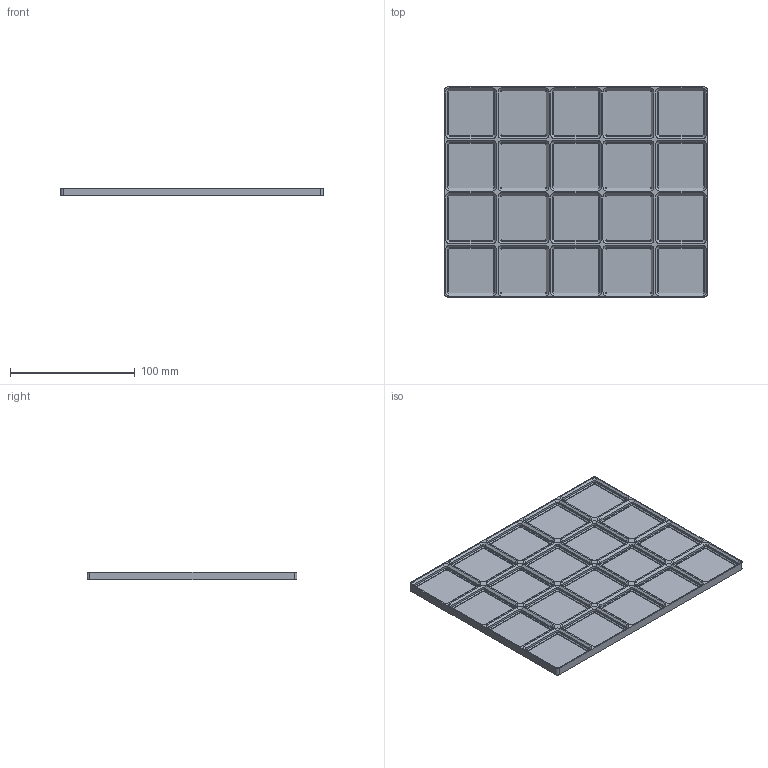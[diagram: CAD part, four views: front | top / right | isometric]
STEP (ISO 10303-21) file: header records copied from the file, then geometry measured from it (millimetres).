
FILE_DESCRIPTION(('Open CASCADE Model'),'2;1');
FILE_NAME('Open CASCADE Shape Model','2026-11-03T10:35:42',('Author'),( 'Open CASCADE'),'Open CASCADE STEP processor 8.0','build123d', 'Unknown');
FILE_SCHEMA(('AUTOMOTIVE_DESIGN { 1 0 10303 214 1 1 1 1 }'));
Length unit declared in the file: millimetre
Products named in the file (1): COMPOUND
Bounding box: 210 x 168 x 6.4 mm (x, y, z)
Volume: 93635.8 mm3; surface area: 84887.2 mm2
Topology: 1 solids, 1 shells, 670 faces, 1464 edges, 816 vertices
Faces by surface type: plane 346, cylinder 164, cone 160
Entity records: 34682 total; most frequent: CARTESIAN_POINT 8007, DIRECTION 4054, ORIENTED_EDGE 2928, PCURVE 2928, DEFINITIONAL_REPRESENTATION 2928, B_SPLINE_CURVE_WITH_KNOTS 2080, LINE 1736, VECTOR 1736
